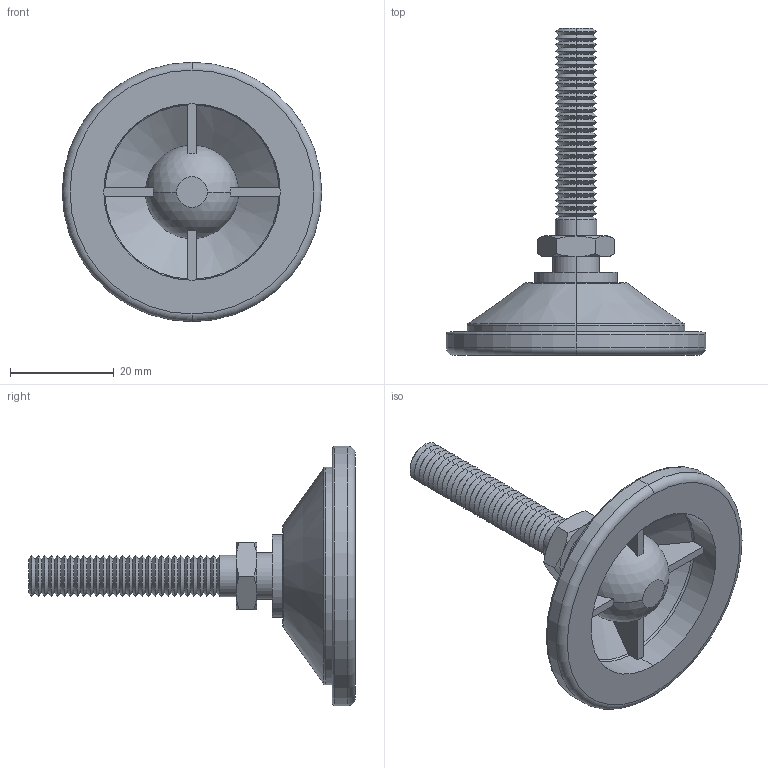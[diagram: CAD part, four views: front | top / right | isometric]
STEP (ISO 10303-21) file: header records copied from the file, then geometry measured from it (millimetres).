
FILE_DESCRIPTION (( 'STEP AP203' ), '1' );
FILE_NAME ('34741.W0083.step', '2016-09-22T07:38:30', ( 'User' ), ( '' ), 'SwSTEP 2.0', 'SolidWorks 2009', '' );
FILE_SCHEMA (( 'CONFIG_CONTROL_DESIGN' ));
Length unit declared in the file: millimetre
Products named in the file (3): Part1_34741.W0083; Part2_34741.W0083; 34741.W0083
Assembly tree (2 placements, depth 2):
  34741.W0083
    Part2_34741.W0083
    Part1_34741.W0083
Bounding box: 50 x 63 x 50 mm (x, y, z)
Volume: 13709.4 mm3; surface area: 9478.3 mm2
Topology: 2 solids, 2 shells, 196 faces, 428 edges, 238 vertices
Faces by surface type: cone 138, plane 26, cylinder 14, torus 12, sphere 6
Entity records: 5637 total; most frequent: CARTESIAN_POINT 1053, DIRECTION 1002, ORIENTED_EDGE 838, AXIS2_PLACEMENT_3D 422, EDGE_CURVE 419, VERTEX_POINT 233, CIRCLE 221, EDGE_LOOP 202
